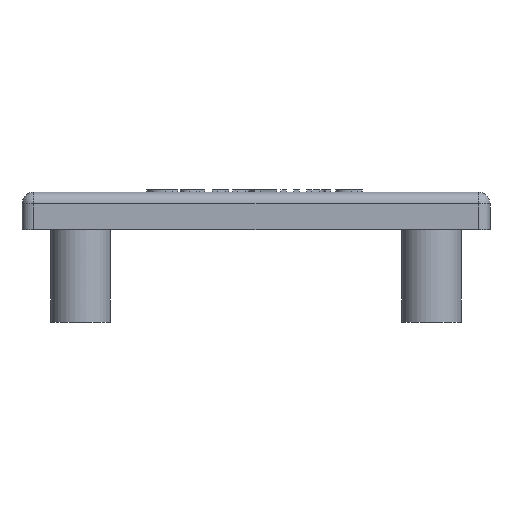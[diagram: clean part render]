
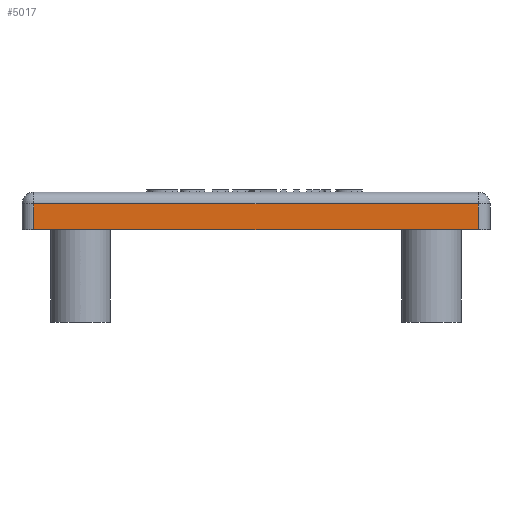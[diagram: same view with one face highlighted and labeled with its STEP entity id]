
A CAD part, front view. The second image highlights one B-rep face of the part: STEP entity #5017.
In plain terms, the highlighted planar face has unit normal (0, -1, 0).
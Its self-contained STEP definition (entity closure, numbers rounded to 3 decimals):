
#4834=CARTESIAN_POINT('',(0.363,-29.037,2.2));
#4835=VERTEX_POINT('',#4834);
#4844=CARTESIAN_POINT('',(-37.637,-29.037,2.2));
#4845=VERTEX_POINT('',#4844);
#4853=CARTESIAN_POINT('',(-37.637,-29.037,2.2));
#4854=DIRECTION('',(1.0,0.0,0.0));
#4855=VECTOR('',#4854,38.0);
#4856=LINE('',#4853,#4855);
#4857=EDGE_CURVE('',#4845,#4835,#4856,.T.);
#4975=CARTESIAN_POINT('',(0.363,-29.037,0.0));
#4976=VERTEX_POINT('',#4975);
#4977=CARTESIAN_POINT('',(0.363,-29.037,0.0));
#4978=DIRECTION('',(0.0,0.0,1.0));
#4979=VECTOR('',#4978,2.2);
#4980=LINE('',#4977,#4979);
#4981=EDGE_CURVE('',#4976,#4835,#4980,.T.);
#4994=CARTESIAN_POINT('',(0.363,-29.037,0.0));
#4995=DIRECTION('',(0.0,-1.0,0.0));
#4996=DIRECTION('',(0.0,0.0,-1.0));
#4997=AXIS2_PLACEMENT_3D('',#4994,#4995,#4996);
#4998=PLANE('',#4997);
#4999=ORIENTED_EDGE('',*,*,#4857,.F.);
#5000=CARTESIAN_POINT('',(-37.637,-29.037,0.0));
#5001=VERTEX_POINT('',#5000);
#5002=CARTESIAN_POINT('',(-37.637,-29.037,0.0));
#5003=DIRECTION('',(0.0,0.0,1.0));
#5004=VECTOR('',#5003,2.2);
#5005=LINE('',#5002,#5004);
#5006=EDGE_CURVE('',#5001,#4845,#5005,.T.);
#5007=ORIENTED_EDGE('',*,*,#5006,.F.);
#5008=CARTESIAN_POINT('',(0.363,-29.037,0.0));
#5009=DIRECTION('',(-1.0,0.0,0.0));
#5010=VECTOR('',#5009,38.0);
#5011=LINE('',#5008,#5010);
#5012=EDGE_CURVE('',#4976,#5001,#5011,.T.);
#5013=ORIENTED_EDGE('',*,*,#5012,.F.);
#5014=ORIENTED_EDGE('',*,*,#4981,.T.);
#5015=EDGE_LOOP('',(#4999,#5007,#5013,#5014));
#5016=FACE_OUTER_BOUND('',#5015,.T.);
#5017=ADVANCED_FACE('',(#5016),#4998,.T.);
